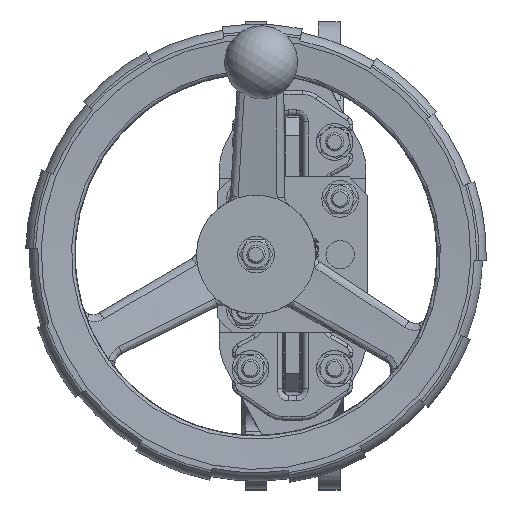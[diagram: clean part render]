
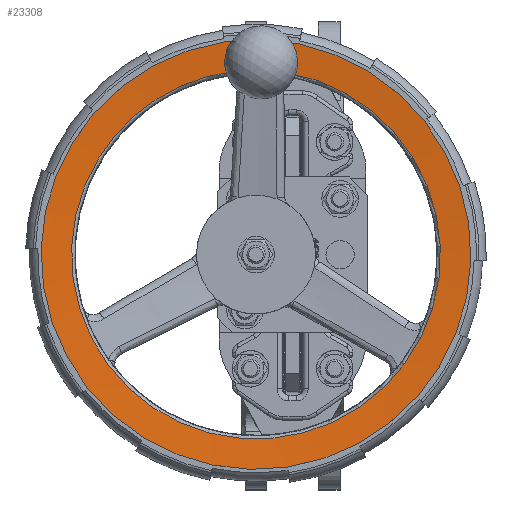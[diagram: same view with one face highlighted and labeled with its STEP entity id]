
A CAD part, top view. The second image highlights one B-rep face of the part: STEP entity #23308.
In plain terms, the highlighted conical face has half-angle 85 degrees and reference radius 108.387 mm.
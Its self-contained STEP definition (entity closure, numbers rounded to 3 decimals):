
#327=B_SPLINE_CURVE_WITH_KNOTS('',3,(#36786,#36787,#36788,#36789,#36790,
#36791),.UNSPECIFIED.,.F.,.F.,(4,2,4),(4.752,4.964,
5.265),.UNSPECIFIED.);
#328=B_SPLINE_CURVE_WITH_KNOTS('',3,(#36795,#36796,#36797,#36798,#36799,
#36800,#36801),.UNSPECIFIED.,.F.,.F.,(4,3,4),(-0.301,0.,0.212),
 .UNSPECIFIED.);
#1131=LINE('',#36926,#2872);
#2872=VECTOR('',#27645,108.387);
#4599=(
BOUNDED_CURVE()
B_SPLINE_CURVE(2,(#36859,#36860,#36861),.UNSPECIFIED.,.F.,.F.)
B_SPLINE_CURVE_WITH_KNOTS((3,3),(23.554,23.704),
 .UNSPECIFIED.)
CURVE()
GEOMETRIC_REPRESENTATION_ITEM()
RATIONAL_B_SPLINE_CURVE((1.109,1.066,1.022))
REPRESENTATION_ITEM('')
);
#4600=(
BOUNDED_CURVE()
B_SPLINE_CURVE(2,(#36921,#36922,#36923),.UNSPECIFIED.,.F.,.F.)
B_SPLINE_CURVE_WITH_KNOTS((3,3),(0.038,0.188),
 .UNSPECIFIED.)
CURVE()
GEOMETRIC_REPRESENTATION_ITEM()
RATIONAL_B_SPLINE_CURVE((1.022,1.066,1.109))
REPRESENTATION_ITEM('')
);
#4772=CONICAL_SURFACE('',#24780,108.387,1.484);
#5082=FACE_OUTER_BOUND('',#6460,.T.);
#6460=EDGE_LOOP('',(#15524,#15525,#15526,#15527,#15528,#15529,#15530,#15531,
#15532,#15533,#15534));
#7858=CIRCLE('',#24672,100.845);
#7859=CIRCLE('',#24673,100.845);
#7940=CIRCLE('',#24769,116.419);
#7944=CIRCLE('',#24781,117.5);
#7945=CIRCLE('',#24782,117.5);
#9160=VERTEX_POINT('',#34454);
#9163=VERTEX_POINT('',#34470);
#9164=VERTEX_POINT('',#34481);
#9272=VERTEX_POINT('',#36722);
#9273=VERTEX_POINT('',#36723);
#9284=VERTEX_POINT('',#36785);
#9285=VERTEX_POINT('',#36793);
#9292=VERTEX_POINT('',#36925);
#9293=VERTEX_POINT('',#36927);
#11464=EDGE_CURVE('',#9163,#9164,#7858,.T.);
#11465=EDGE_CURVE('',#9164,#9160,#7859,.T.);
#11641=EDGE_CURVE('',#9272,#9273,#7940,.T.);
#11655=EDGE_CURVE('',#9284,#9160,#327,.T.);
#11658=EDGE_CURVE('',#9163,#9285,#328,.T.);
#11663=EDGE_CURVE('',#9285,#9272,#4599,.T.);
#11669=EDGE_CURVE('',#9273,#9284,#4600,.T.);
#11670=EDGE_CURVE('',#9164,#9292,#1131,.T.);
#11671=EDGE_CURVE('',#9293,#9292,#7944,.T.);
#11672=EDGE_CURVE('',#9292,#9293,#7945,.T.);
#15524=ORIENTED_EDGE('',*,*,#11464,.F.);
#15525=ORIENTED_EDGE('',*,*,#11658,.T.);
#15526=ORIENTED_EDGE('',*,*,#11663,.T.);
#15527=ORIENTED_EDGE('',*,*,#11641,.T.);
#15528=ORIENTED_EDGE('',*,*,#11669,.T.);
#15529=ORIENTED_EDGE('',*,*,#11655,.T.);
#15530=ORIENTED_EDGE('',*,*,#11465,.F.);
#15531=ORIENTED_EDGE('',*,*,#11670,.T.);
#15532=ORIENTED_EDGE('',*,*,#11671,.F.);
#15533=ORIENTED_EDGE('',*,*,#11672,.F.);
#15534=ORIENTED_EDGE('',*,*,#11670,.F.);
#23308=ADVANCED_FACE('',(#5082),#4772,.F.);
#24672=AXIS2_PLACEMENT_3D('',#34482,#27417,#27418);
#24673=AXIS2_PLACEMENT_3D('',#34483,#27419,#27420);
#24769=AXIS2_PLACEMENT_3D('',#36724,#27613,#27614);
#24780=AXIS2_PLACEMENT_3D('',#36924,#27643,#27644);
#24781=AXIS2_PLACEMENT_3D('',#36928,#27646,#27647);
#24782=AXIS2_PLACEMENT_3D('',#36929,#27648,#27649);
#27417=DIRECTION('center_axis',(0.,0.,
1.));
#27418=DIRECTION('ref_axis',(-0.027,-1.,0.));
#27419=DIRECTION('center_axis',(0.,0.,
1.));
#27420=DIRECTION('ref_axis',(-0.027,-1.,0.));
#27613=DIRECTION('center_axis',(0.,0.,
-1.));
#27614=DIRECTION('ref_axis',(0.852,-0.523,0.));
#27643=DIRECTION('center_axis',(0.,0.,
1.));
#27644=DIRECTION('ref_axis',(0.852,-0.523,0.));
#27645=DIRECTION('',(-0.849,0.521,0.087));
#27646=DIRECTION('center_axis',(0.,0.,
-1.));
#27647=DIRECTION('ref_axis',(0.852,-0.523,0.));
#27648=DIRECTION('center_axis',(0.,0.,
-1.));
#27649=DIRECTION('ref_axis',(0.852,-0.523,0.));
#34454=CARTESIAN_POINT('',(-3.191,99.434,460.637));
#34470=CARTESIAN_POINT('',(-31.361,100.203,460.637));
#34481=CARTESIAN_POINT('',(-105.926,52.786,460.637));
#34482=CARTESIAN_POINT('Origin',(-20.,0.,
460.637));
#34483=CARTESIAN_POINT('Origin',(-20.,0.,
460.637));
#36722=CARTESIAN_POINT('',(-31.845,115.814,462.));
#36723=CARTESIAN_POINT('',(-1.856,114.996,462.));
#36724=CARTESIAN_POINT('Origin',(-20.,0.,
462.));
#36785=CARTESIAN_POINT('',(-2.141,104.552,461.094));
#36786=CARTESIAN_POINT('Ctrl Pts',(-2.141,104.552,461.094));
#36787=CARTESIAN_POINT('Ctrl Pts',(-2.161,103.825,461.031));
#36788=CARTESIAN_POINT('Ctrl Pts',(-2.234,103.108,460.968));
#36789=CARTESIAN_POINT('Ctrl Pts',(-2.523,101.429,460.819));
#36790=CARTESIAN_POINT('Ctrl Pts',(-2.801,100.418,460.728));
#36791=CARTESIAN_POINT('Ctrl Pts',(-3.191,99.434,460.637));
#36793=CARTESIAN_POINT('',(-32.13,105.37,461.094));
#36795=CARTESIAN_POINT('Ctrl Pts',(-31.361,100.203,460.637));
#36796=CARTESIAN_POINT('Ctrl Pts',(-31.697,101.206,460.728));
#36797=CARTESIAN_POINT('Ctrl Pts',(-31.919,102.231,460.819));
#36798=CARTESIAN_POINT('Ctrl Pts',(-32.035,103.224,460.907));
#36799=CARTESIAN_POINT('Ctrl Pts',(-32.116,103.923,460.968));
#36800=CARTESIAN_POINT('Ctrl Pts',(-32.15,104.643,461.031));
#36801=CARTESIAN_POINT('Ctrl Pts',(-32.13,105.37,461.094));
#36859=CARTESIAN_POINT('Ctrl Pts',(-32.13,105.37,461.094));
#36860=CARTESIAN_POINT('Ctrl Pts',(-31.994,110.349,461.526));
#36861=CARTESIAN_POINT('Ctrl Pts',(-31.845,115.814,462.));
#36921=CARTESIAN_POINT('Ctrl Pts',(-1.856,114.996,462.));
#36922=CARTESIAN_POINT('Ctrl Pts',(-2.005,109.531,461.526));
#36923=CARTESIAN_POINT('Ctrl Pts',(-2.141,104.552,461.094));
#36924=CARTESIAN_POINT('Origin',(-20.,0.,
461.297));
#36925=CARTESIAN_POINT('',(-120.117,61.504,462.095));
#36926=CARTESIAN_POINT('',(-112.352,56.734,461.297));
#36927=CARTESIAN_POINT('',(80.117,-61.504,462.095));
#36928=CARTESIAN_POINT('Origin',(-20.,0.,
462.095));
#36929=CARTESIAN_POINT('Origin',(-20.,0.,
462.095));
